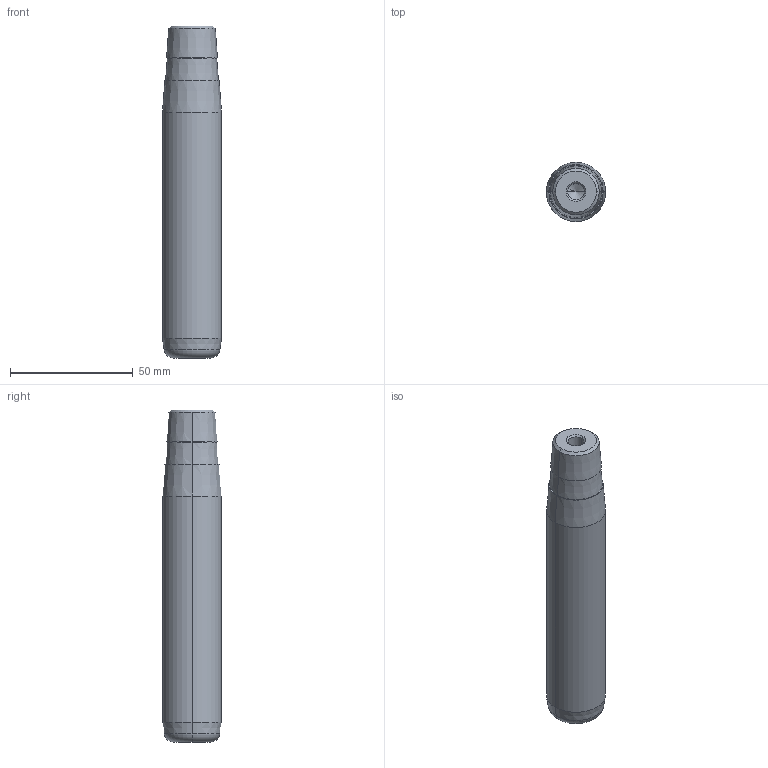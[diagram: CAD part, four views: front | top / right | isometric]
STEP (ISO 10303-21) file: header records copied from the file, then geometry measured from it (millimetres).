
FILE_DESCRIPTION(('CATIA V5 STEP Exchange'),'2;1');
FILE_NAME('C:\Users\Utente\Desktop\IO LAVORO\3D X SITO CF\X SITO\722\722-24x112x135.stp','2021-01-09T08:38:27+00:00',('none'),('none'),'CATIA Version 5 Release 20 GA (IN-10)','CATIA V5 STEP AP203','none');
FILE_SCHEMA(('CONFIG_CONTROL_DESIGN'));
Length unit declared in the file: millimetre
Products named in the file (1): 722-24x112x135
Bounding box: 24 x 24 x 135 mm (x, y, z)
Volume: 55308.5 mm3; surface area: 11503.2 mm2
Topology: 1 solids, 1 shells, 32 faces, 66 edges, 34 vertices
Faces by surface type: cone 22, cylinder 6, plane 2, torus 2
Entity records: 854 total; most frequent: CARTESIAN_POINT 175, DIRECTION 124, ORIENTED_EDGE 124, AXIS2_PLACEMENT_3D 65, EDGE_CURVE 62, EDGE_LOOP 34, VERTEX_POINT 34, ADVANCED_FACE 32
